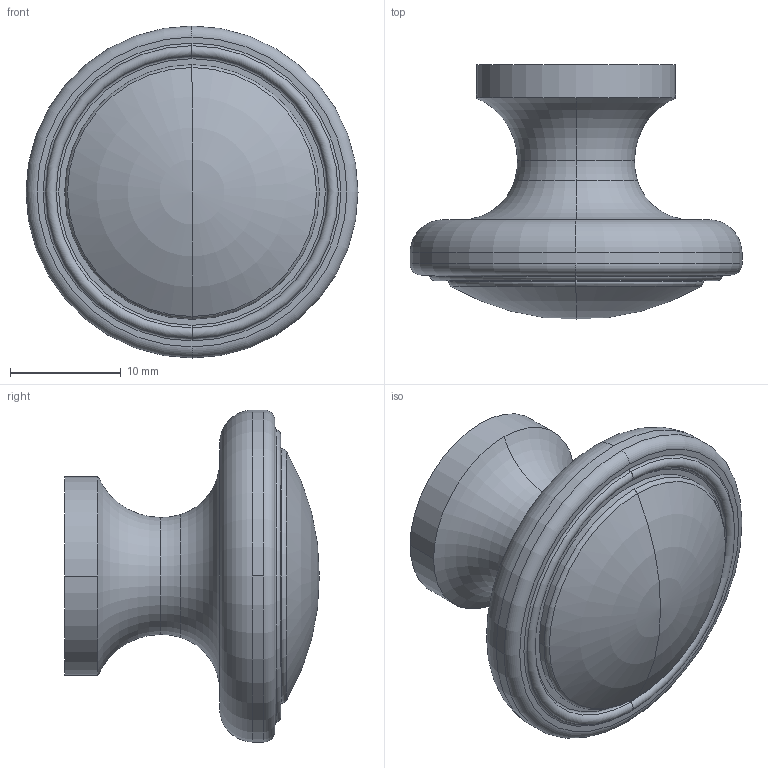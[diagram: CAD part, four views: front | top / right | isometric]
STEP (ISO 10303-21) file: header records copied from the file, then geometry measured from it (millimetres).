
FILE_DESCRIPTION( ( '' ), '1' );
FILE_NAME( 'C:/Documents and Settings/Nikhil/Desktop/Nik/Done/9113367.stp', '2013-10-23T10:47:36', ( '' ), ( '' ), ' ', ' ', ' ' );
FILE_SCHEMA( ( 'automotive_design' ) );
Length unit declared in the file: millimetre
Products named in the file (1): 1
Bounding box: 30 x 23 x 30 mm (x, y, z)
Volume: 6475.3 mm3; surface area: 2720.1 mm2
Topology: 1 solids, 1 shells, 33 faces, 83 edges, 54 vertices
Faces by surface type: torus 20, cylinder 8, plane 5
Entity records: 1991 total; most frequent: DIRECTION 222, STYLED_ITEM 169, PRESENTATION_STYLE_ASSIGNMENT 169, CARTESIAN_POINT 169, COLOUR_RGB 169, ORIENTED_EDGE 162, AXIS2_PLACEMENT_3D 107, EDGE_CURVE 81
